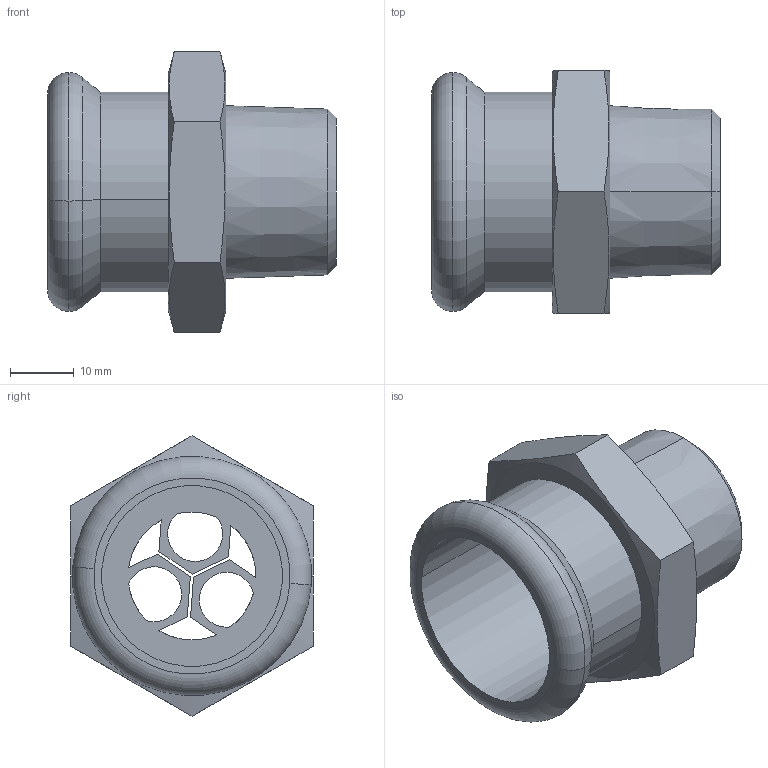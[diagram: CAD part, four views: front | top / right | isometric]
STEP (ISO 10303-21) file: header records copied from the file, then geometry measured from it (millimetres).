
FILE_DESCRIPTION(('OneSpaceDesigner STEP Export'),'2;1');
FILE_NAME('R2705 28xR3-4.stp','2010-06-09T10:54:26',(''),(''),'OneSpace Designer STEP processor for AP214 (Solid Model)','OneSpace Modeling 15.00A 14-Mar-2007 (C) CoCreate Software GmbH','');
FILE_SCHEMA(('AUTOMOTIVE_DESIGN { 1 0 10303 214 1 1 1 1 }'));
Length unit declared in the file: millimetre
Products named in the file (2): R2705_28xR3-4
Assembly tree (1 placements, depth 2):
  R2705_28xR3-4
    R2705_28xR3-4
Bounding box: 45.2 x 38 x 43.88 mm (x, y, z)
Volume: 15688.5 mm3; surface area: 10404.6 mm2
Topology: 1 solids, 1 shells, 52 faces, 144 edges, 94 vertices
Faces by surface type: plane 26, cylinder 12, cone 10, torus 4
Entity records: 2320 total; most frequent: CARTESIAN_POINT 1069, ORIENTED_EDGE 288, DIRECTION 204, EDGE_CURVE 144, VERTEX_POINT 94, VECTOR 70, LINE 70, AXIS2_PLACEMENT_3D 67
